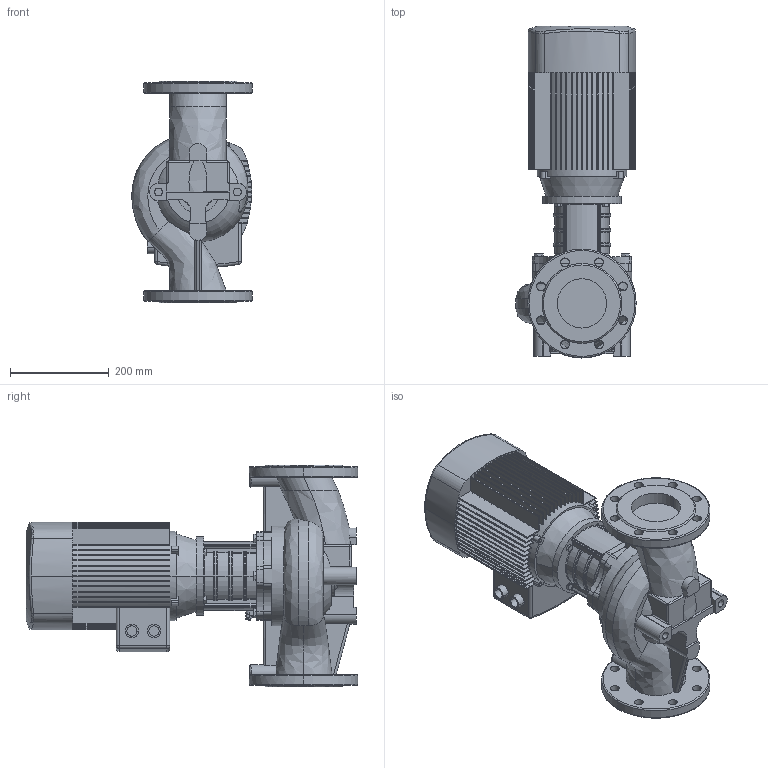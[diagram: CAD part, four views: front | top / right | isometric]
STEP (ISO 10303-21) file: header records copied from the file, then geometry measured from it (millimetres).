
FILE_DESCRIPTION (( 'STEP AP203' ), '1' );
FILE_NAME ('TD100-15G／2.STEP', '2026-09-07T02:41:42', ( '' ), ( '' ), 'SwSTEP 2.0', 'SolidWorks 2020', '' );
FILE_SCHEMA (( 'CONFIG_CONTROL_DESIGN' ));
Length unit declared in the file: millimetre
Products named in the file (1): TD100-15Gㄞ2
Bounding box: 244.18 x 673 x 450 mm (x, y, z)
Volume: 22874446.9 mm3; surface area: 1286629.1 mm2
Topology: 1 solids, 9 shells, 1288 faces, 3429 edges, 2134 vertices
Faces by surface type: plane 621, cylinder 359, torus 116, cone 94, sphere 50, bspline 48
Entity records: 50841 total; most frequent: CARTESIAN_POINT 18974, ORIENTED_EDGE 6770, DIRECTION 6728, EDGE_CURVE 3385, AXIS2_PLACEMENT_3D 2546, VERTEX_POINT 2126, VECTOR 1636, LINE 1636
